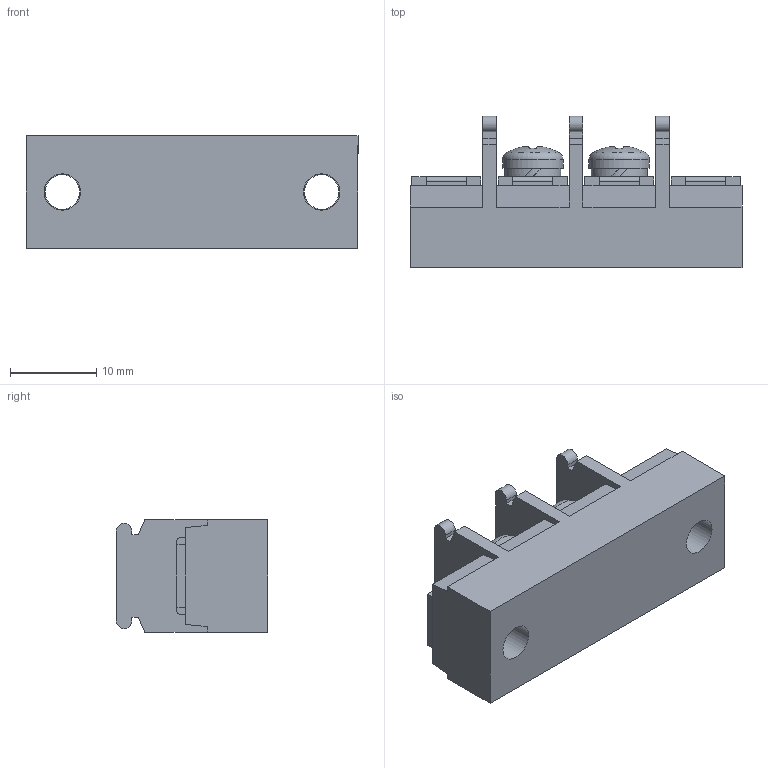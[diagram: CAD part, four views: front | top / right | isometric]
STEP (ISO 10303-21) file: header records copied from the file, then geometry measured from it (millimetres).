
FILE_DESCRIPTION(/* description */ ('Alibre Inc.'),/* implementation_level */ '2;1');
FILE_NAME(/* name */ 'export0',/* time_stamp */ '2015-10-17T18:37:09+09:00',/* author */ (''),/* organization */ (''),/* preprocessor_version */ 'ST-DEVELOPER v14',/* originating_system */ 'Alibre',/* authorisation */ '');
FILE_SCHEMA (('CONFIG_CONTROL_DESIGN'));
Length unit declared in the file: centimetre
Products named in the file (1): ID_1
Bounding box: 38.4 x 17.5 x 13 mm (x, y, z)
Volume: 5251.3 mm3; surface area: 3261.6 mm2
Topology: 1 solids, 17 shells, 556 faces, 1478 edges, 984 vertices
Faces by surface type: plane 414, bspline 104, cylinder 24, cone 8, torus 4, sphere 2
Full cylindrical faces by diameter (mm): 4 x4, 4.2 x2, 6.5 x2, 7 x2
Entity records: 16715 total; most frequent: CARTESIAN_POINT 3977, ORIENTED_EDGE 2916, DIRECTION 1818, EDGE_CURVE 1458, VECTOR 1130, LINE 1130, VERTEX_POINT 976, EDGE_LOOP 612
